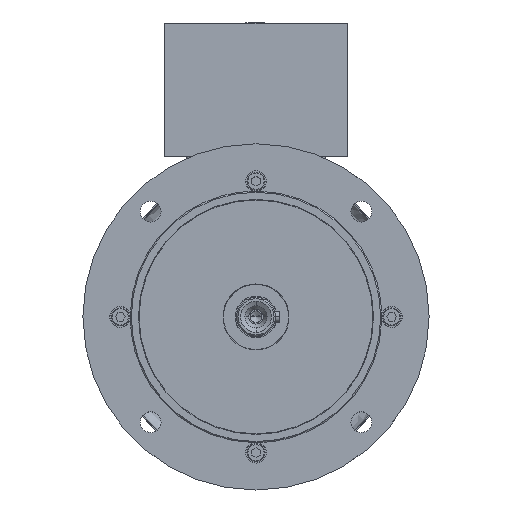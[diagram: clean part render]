
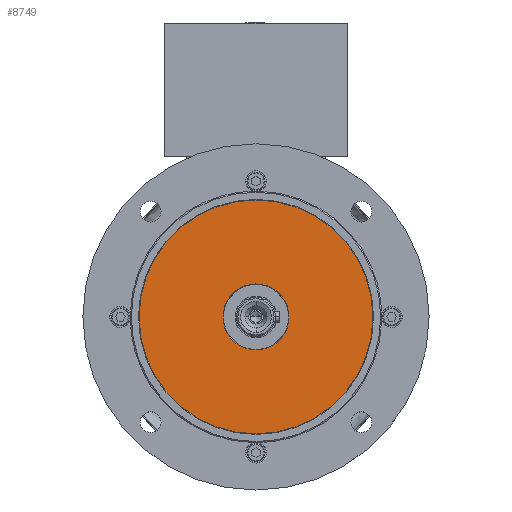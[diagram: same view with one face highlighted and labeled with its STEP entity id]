
A CAD part, top view. The second image highlights one B-rep face of the part: STEP entity #8749.
In plain terms, the highlighted planar face has unit normal (0, 0, 1).
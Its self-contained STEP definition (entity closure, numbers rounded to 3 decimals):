
#208 = CARTESIAN_POINT ( 'NONE',  ( 84.388, 0., 139. ) ) ;
#1483 = VERTEX_POINT ( 'NONE', #13894 ) ;
#2236 = CIRCLE ( 'NONE', #33730, 23.815 ) ;
#3219 = CIRCLE ( 'NONE', #19451, 84.388 ) ;
#3268 = CARTESIAN_POINT ( 'NONE',  ( 0., 23.815, 139. ) ) ;
#4158 = ORIENTED_EDGE ( 'NONE', *, *, #40793, .T. ) ;
#4640 = CIRCLE ( 'NONE', #21074, 23.815 ) ;
#8749 = ADVANCED_FACE ( 'NONE', ( #37299, #10658 ), #21940, .T. ) ;
#10658 = FACE_OUTER_BOUND ( 'NONE', #32138, .T. ) ;
#12069 = EDGE_CURVE ( 'NONE', #41581, #22483, #3219, .T. ) ;
#12527 = CARTESIAN_POINT ( 'NONE',  ( -84.388, 0., 139. ) ) ;
#12662 = DIRECTION ( 'NONE',  ( 0., 0., 1. ) ) ;
#13894 = CARTESIAN_POINT ( 'NONE',  ( -23.815, 0., 139. ) ) ;
#15905 = DIRECTION ( 'NONE',  ( 1., 0., 0. ) ) ;
#16514 = DIRECTION ( 'NONE',  ( 0., 0., 1. ) ) ;
#17631 = DIRECTION ( 'NONE',  ( 0., 0., 1. ) ) ;
#17877 = CARTESIAN_POINT ( 'NONE',  ( 23.815, 0., 139. ) ) ;
#18098 = CARTESIAN_POINT ( 'NONE',  ( 0., 0., 139. ) ) ;
#19294 = ORIENTED_EDGE ( 'NONE', *, *, #12069, .T. ) ;
#19451 = AXIS2_PLACEMENT_3D ( 'NONE', #21712, #16514, #15905 ) ;
#20811 = DIRECTION ( 'NONE',  ( 1., 0., 0. ) ) ;
#21074 = AXIS2_PLACEMENT_3D ( 'NONE', #18098, #21322, #27583 ) ;
#21322 = DIRECTION ( 'NONE',  ( 0., 0., -1. ) ) ;
#21712 = CARTESIAN_POINT ( 'NONE',  ( 0., 0., 139. ) ) ;
#21940 = PLANE ( 'NONE',  #28098 ) ;
#22483 = VERTEX_POINT ( 'NONE', #12527 ) ;
#25394 = DIRECTION ( 'NONE',  ( 1., 0., 0. ) ) ;
#26501 = ORIENTED_EDGE ( 'NONE', *, *, #31898, .T. ) ;
#27583 = DIRECTION ( 'NONE',  ( 1., 0., 0. ) ) ;
#28098 = AXIS2_PLACEMENT_3D ( 'NONE', #3268, #12662, #25394 ) ;
#29938 = VERTEX_POINT ( 'NONE', #17877 ) ;
#30070 = CARTESIAN_POINT ( 'NONE',  ( 0., 0., 139. ) ) ;
#30410 = CARTESIAN_POINT ( 'NONE',  ( 0., 0., 139. ) ) ;
#30467 = EDGE_LOOP ( 'NONE', ( #4158, #34642 ) ) ;
#30674 = AXIS2_PLACEMENT_3D ( 'NONE', #30410, #17631, #40024 ) ;
#31898 = EDGE_CURVE ( 'NONE', #22483, #41581, #37160, .T. ) ;
#32138 = EDGE_LOOP ( 'NONE', ( #19294, #26501 ) ) ;
#33730 = AXIS2_PLACEMENT_3D ( 'NONE', #30070, #39678, #20811 ) ;
#34269 = EDGE_CURVE ( 'NONE', #1483, #29938, #2236, .T. ) ;
#34642 = ORIENTED_EDGE ( 'NONE', *, *, #34269, .T. ) ;
#37160 = CIRCLE ( 'NONE', #30674, 84.388 ) ;
#37299 = FACE_BOUND ( 'NONE', #30467, .T. ) ;
#39678 = DIRECTION ( 'NONE',  ( 0., 0., -1. ) ) ;
#40024 = DIRECTION ( 'NONE',  ( 1., 0., 0. ) ) ;
#40793 = EDGE_CURVE ( 'NONE', #29938, #1483, #4640, .T. ) ;
#41581 = VERTEX_POINT ( 'NONE', #208 ) ;
